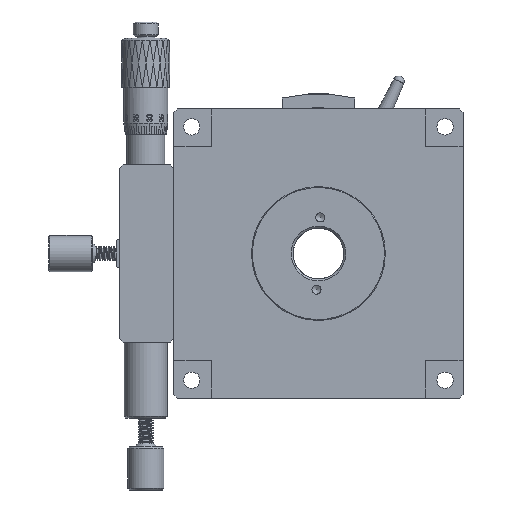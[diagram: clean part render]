
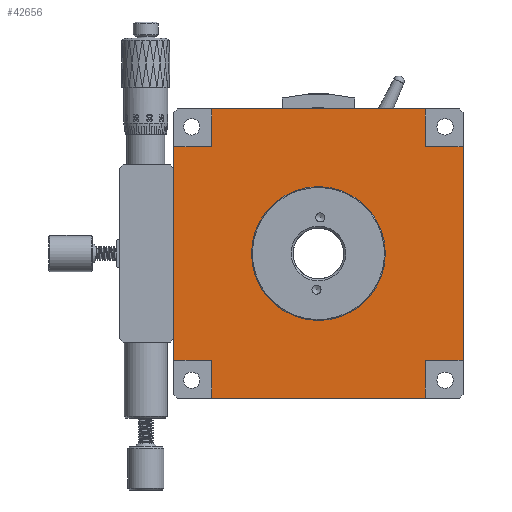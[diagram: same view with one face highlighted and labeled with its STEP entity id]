
A CAD part, front view. The second image highlights one B-rep face of the part: STEP entity #42656.
In plain terms, the highlighted planar face has unit normal (0, -1, 0).
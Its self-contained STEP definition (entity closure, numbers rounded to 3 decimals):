
#2146 = DIRECTION ( 'NONE',  ( 1., 0., 0. ) ) ;
#4771 = EDGE_LOOP ( 'NONE', ( #106565 ) ) ;
#7518 = CARTESIAN_POINT ( 'NONE',  ( 29.5, 0.3, 40. ) ) ;
#8421 = EDGE_CURVE ( 'NONE', #120225, #71030, #32225, .T. ) ;
#9381 = CARTESIAN_POINT ( 'NONE',  ( 29.5, 0.3, -40. ) ) ;
#9689 = EDGE_CURVE ( 'NONE', #131210, #86988, #39417, .T. ) ;
#14743 = VECTOR ( 'NONE', #152723, 1000. ) ;
#15425 = ORIENTED_EDGE ( 'NONE', *, *, #9689, .F. ) ;
#16377 = CARTESIAN_POINT ( 'NONE',  ( 0., 0.3, 0. ) ) ;
#17742 = CARTESIAN_POINT ( 'NONE',  ( 40., 0.3, 29.5 ) ) ;
#18021 = LINE ( 'NONE', #67459, #107439 ) ;
#18562 = ORIENTED_EDGE ( 'NONE', *, *, #23858, .F. ) ;
#18765 = PLANE ( 'NONE',  #126446 ) ;
#19463 = CARTESIAN_POINT ( 'NONE',  ( 0., 0.3, -18.5 ) ) ;
#23167 = DIRECTION ( 'NONE',  ( 0., 0., 1. ) ) ;
#23611 = CARTESIAN_POINT ( 'NONE',  ( -29.5, 0.3, 29.5 ) ) ;
#23858 = EDGE_CURVE ( 'NONE', #38651, #155661, #56144, .T. ) ;
#25051 = EDGE_CURVE ( 'NONE', #101195, #148521, #29244, .T. ) ;
#26477 = LINE ( 'NONE', #94900, #121986 ) ;
#27716 = DIRECTION ( 'NONE',  ( 0., -1., 0. ) ) ;
#28340 = CARTESIAN_POINT ( 'NONE',  ( 40., 0.3, 29.5 ) ) ;
#28754 = CARTESIAN_POINT ( 'NONE',  ( -40., 0.3, 29.5 ) ) ;
#29244 = LINE ( 'NONE', #43808, #123262 ) ;
#29386 = VERTEX_POINT ( 'NONE', #90254 ) ;
#30048 = DIRECTION ( 'NONE',  ( 0., 0., 1. ) ) ;
#30929 = FACE_BOUND ( 'NONE', #4771, .T. ) ;
#32225 = LINE ( 'NONE', #68725, #49266 ) ;
#38651 = VERTEX_POINT ( 'NONE', #130567 ) ;
#39342 = EDGE_CURVE ( 'NONE', #101195, #120225, #53781, .T. ) ;
#39417 = LINE ( 'NONE', #127788, #75274 ) ;
#41567 = DIRECTION ( 'NONE',  ( 0., 0., -1. ) ) ;
#42214 = ORIENTED_EDGE ( 'NONE', *, *, #8421, .F. ) ;
#42656 = ADVANCED_FACE ( 'NONE', ( #30929, #80370 ), #18765, .T. ) ;
#43808 = CARTESIAN_POINT ( 'NONE',  ( 40., 0.3, 40. ) ) ;
#47171 = VECTOR ( 'NONE', #63589, 1000. ) ;
#49266 = VECTOR ( 'NONE', #106023, 1000. ) ;
#49571 = DIRECTION ( 'NONE',  ( 0., 0., -1. ) ) ;
#50625 = LINE ( 'NONE', #139001, #47171 ) ;
#51347 = EDGE_CURVE ( 'NONE', #86988, #159314, #84785, .T. ) ;
#51541 = EDGE_CURVE ( 'NONE', #38651, #159314, #18021, .T. ) ;
#53235 = VECTOR ( 'NONE', #41567, 1000. ) ;
#53751 = ORIENTED_EDGE ( 'NONE', *, *, #51347, .F. ) ;
#53781 = LINE ( 'NONE', #103251, #14743 ) ;
#56144 = LINE ( 'NONE', #7518, #53235 ) ;
#58885 = CARTESIAN_POINT ( 'NONE',  ( -40., 0.3, -40. ) ) ;
#59187 = DIRECTION ( 'NONE',  ( -1., 0., 0. ) ) ;
#59230 = CARTESIAN_POINT ( 'NONE',  ( -29.5, 0.3, 40. ) ) ;
#60295 = EDGE_LOOP ( 'NONE', ( #136661, #107055, #102001, #75227, #42214, #131735, #63717, #68465, #18562, #108407, #53751, #15425 ) ) ;
#63589 = DIRECTION ( 'NONE',  ( 0., 0., 1. ) ) ;
#63717 = ORIENTED_EDGE ( 'NONE', *, *, #25051, .T. ) ;
#63885 = CARTESIAN_POINT ( 'NONE',  ( 29.5, 0.3, -29.5 ) ) ;
#64145 = CARTESIAN_POINT ( 'NONE',  ( -29.5, 0.3, -29.5 ) ) ;
#67459 = CARTESIAN_POINT ( 'NONE',  ( -40., 0.3, 40. ) ) ;
#68465 = ORIENTED_EDGE ( 'NONE', *, *, #113183, .F. ) ;
#68725 = CARTESIAN_POINT ( 'NONE',  ( 29.5, 0.3, -40. ) ) ;
#70432 = VECTOR ( 'NONE', #121335, 1000. ) ;
#71030 = VERTEX_POINT ( 'NONE', #9381 ) ;
#73903 = DIRECTION ( 'NONE',  ( 0., -1., 0. ) ) ;
#75154 = EDGE_CURVE ( 'NONE', #131210, #29386, #141231, .T. ) ;
#75227 = ORIENTED_EDGE ( 'NONE', *, *, #154857, .T. ) ;
#75274 = VECTOR ( 'NONE', #2146, 1000. ) ;
#80370 = FACE_OUTER_BOUND ( 'NONE', #60295, .T. ) ;
#84785 = LINE ( 'NONE', #134281, #143678 ) ;
#86988 = VERTEX_POINT ( 'NONE', #23611 ) ;
#88500 = CARTESIAN_POINT ( 'NONE',  ( 40., 0.3, -29.5 ) ) ;
#90121 = DIRECTION ( 'NONE',  ( 0., 0., -1. ) ) ;
#90254 = CARTESIAN_POINT ( 'NONE',  ( -40., 0.3, -29.5 ) ) ;
#91623 = CARTESIAN_POINT ( 'NONE',  ( 29.5, 0.3, 29.5 ) ) ;
#94900 = CARTESIAN_POINT ( 'NONE',  ( -40., 0.3, -29.5 ) ) ;
#95055 = VECTOR ( 'NONE', #125665, 1000. ) ;
#99538 = EDGE_CURVE ( 'NONE', #148283, #29386, #26477, .T. ) ;
#101195 = VERTEX_POINT ( 'NONE', #88500 ) ;
#102001 = ORIENTED_EDGE ( 'NONE', *, *, #152580, .F. ) ;
#103251 = CARTESIAN_POINT ( 'NONE',  ( 40., 0.3, -29.5 ) ) ;
#103889 = AXIS2_PLACEMENT_3D ( 'NONE', #158336, #73903, #49571 ) ;
#104613 = VERTEX_POINT ( 'NONE', #19463 ) ;
#104764 = DIRECTION ( 'NONE',  ( -1., 0., 0. ) ) ;
#106023 = DIRECTION ( 'NONE',  ( 0., 0., -1. ) ) ;
#106565 = ORIENTED_EDGE ( 'NONE', *, *, #150208, .F. ) ;
#107055 = ORIENTED_EDGE ( 'NONE', *, *, #99538, .F. ) ;
#107439 = VECTOR ( 'NONE', #104764, 1000. ) ;
#108407 = ORIENTED_EDGE ( 'NONE', *, *, #51541, .T. ) ;
#109164 = LINE ( 'NONE', #58885, #70432 ) ;
#113183 = EDGE_CURVE ( 'NONE', #155661, #148521, #126475, .T. ) ;
#114319 = CIRCLE ( 'NONE', #103889, 18.5 ) ;
#116085 = DIRECTION ( 'NONE',  ( 0., 0., -1. ) ) ;
#120225 = VERTEX_POINT ( 'NONE', #63885 ) ;
#121335 = DIRECTION ( 'NONE',  ( 1., 0., 0. ) ) ;
#121986 = VECTOR ( 'NONE', #59187, 1000. ) ;
#123262 = VECTOR ( 'NONE', #30048, 1000. ) ;
#124559 = VERTEX_POINT ( 'NONE', #157032 ) ;
#125665 = DIRECTION ( 'NONE',  ( 1., 0., 0. ) ) ;
#126446 = AXIS2_PLACEMENT_3D ( 'NONE', #16377, #27716, #90121 ) ;
#126475 = LINE ( 'NONE', #28340, #95055 ) ;
#127788 = CARTESIAN_POINT ( 'NONE',  ( -40., 0.3, 29.5 ) ) ;
#130567 = CARTESIAN_POINT ( 'NONE',  ( 29.5, 0.3, 40. ) ) ;
#131210 = VERTEX_POINT ( 'NONE', #28754 ) ;
#131735 = ORIENTED_EDGE ( 'NONE', *, *, #39342, .F. ) ;
#134281 = CARTESIAN_POINT ( 'NONE',  ( -29.5, 0.3, 40. ) ) ;
#136661 = ORIENTED_EDGE ( 'NONE', *, *, #75154, .T. ) ;
#139001 = CARTESIAN_POINT ( 'NONE',  ( -29.5, 0.3, -40. ) ) ;
#141231 = LINE ( 'NONE', #151776, #142298 ) ;
#142298 = VECTOR ( 'NONE', #116085, 1000. ) ;
#143678 = VECTOR ( 'NONE', #23167, 1000. ) ;
#148283 = VERTEX_POINT ( 'NONE', #64145 ) ;
#148521 = VERTEX_POINT ( 'NONE', #17742 ) ;
#150208 = EDGE_CURVE ( 'NONE', #104613, #104613, #114319, .T. ) ;
#151776 = CARTESIAN_POINT ( 'NONE',  ( -40., 0.3, 40. ) ) ;
#152580 = EDGE_CURVE ( 'NONE', #124559, #148283, #50625, .T. ) ;
#152723 = DIRECTION ( 'NONE',  ( -1., 0., 0. ) ) ;
#154857 = EDGE_CURVE ( 'NONE', #124559, #71030, #109164, .T. ) ;
#155661 = VERTEX_POINT ( 'NONE', #91623 ) ;
#157032 = CARTESIAN_POINT ( 'NONE',  ( -29.5, 0.3, -40. ) ) ;
#158336 = CARTESIAN_POINT ( 'NONE',  ( 0., 0.3, 0. ) ) ;
#159314 = VERTEX_POINT ( 'NONE', #59230 ) ;
